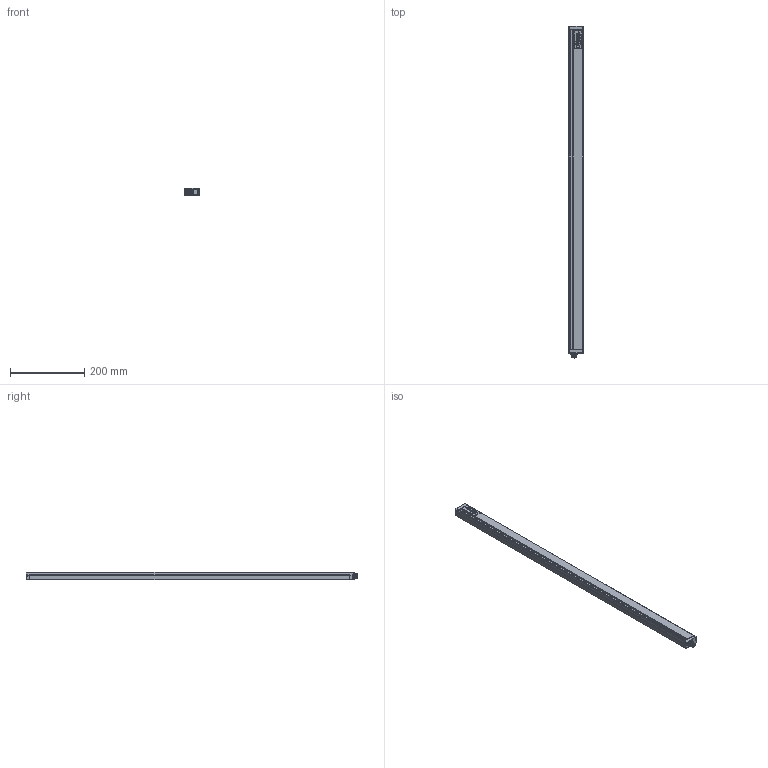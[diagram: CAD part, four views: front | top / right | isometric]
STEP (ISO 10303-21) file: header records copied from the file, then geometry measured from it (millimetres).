
FILE_DESCRIPTION(/* description */ (''),/* implementation_level */ '2;1');
FILE_NAME(/* name */ 'C:\Users\andre\SynologyDrive\Optoscan\Libreria Componenti\00 - Barriere\Polaris sorgente\Poalris_860_TX.stp',/* time_stamp */ '2021-06-04T10:57:59+02:00',/* author */ ('andre'),/* organization */ (''),/* preprocessor_version */ 'ST-DEVELOPER v18',/* originating_system */ 'Autodesk Inventor 2020',/* authorisation */ '');
FILE_SCHEMA (('AUTOMOTIVE_DESIGN { 1 0 10303 214 3 1 1 }'));
Length unit declared in the file: millimetre
Products named in the file (1): Poalris_860_TX
Bounding box: 40.5 x 896.8 x 20.75 mm (x, y, z)
Volume: 179391 mm3; surface area: 233882 mm2
Topology: 1 solids, 1 shells, 743 faces, 2072 edges, 1332 vertices
Faces by surface type: plane 332, cylinder 208, bspline 115, torus 74, cone 8, sphere 6
Full cylindrical faces by diameter (mm): 1 x8, 2.459 x4, 2.5 x4, 3 x4, 3.5 x4, 5.5 x4, 8 x1, 10.5 x2, 11.75 x9, 12 x1, 12.3 x3, 14.5 x1, 16.7 x1, 17.5 x1
Entity records: 30714 total; most frequent: CARTESIAN_POINT 11308, ORIENTED_EDGE 4130, DIRECTION 3590, EDGE_CURVE 2065, VERTEX_POINT 1333, AXIS2_PLACEMENT_3D 1263, LINE 1064, VECTOR 1064
